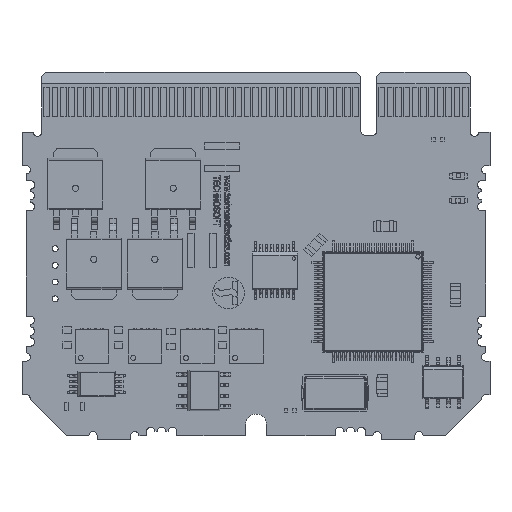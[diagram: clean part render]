
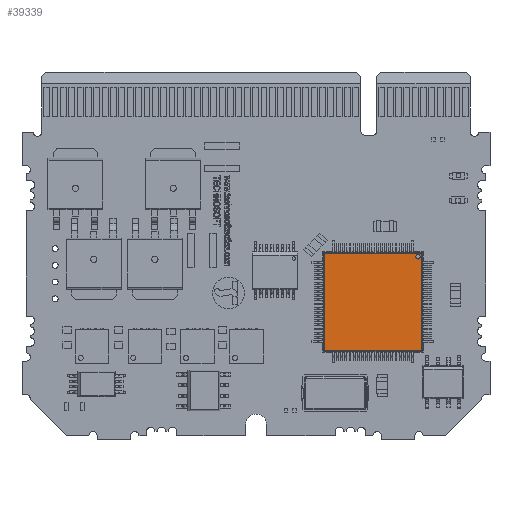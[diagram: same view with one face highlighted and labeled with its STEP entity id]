
A CAD part, front view. The second image highlights one B-rep face of the part: STEP entity #39339.
In plain terms, the highlighted planar face has unit normal (0, -1, 0).
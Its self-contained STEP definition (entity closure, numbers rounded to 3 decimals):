
#31016 = EDGE_LOOP ( 'NONE', ( #109402, #109408, #109413, #109418 ) ) ;
#31023 = EDGE_LOOP ( 'NONE', ( #109393, #109398 ) ) ;
#39339 = ADVANCED_FACE ( 'NONE', ( #186845, #186859 ), #186871, .F. ) ;
#109393 = ORIENTED_EDGE ( 'NONE', *, *, #231429, .F. ) ;
#109398 = ORIENTED_EDGE ( 'NONE', *, *, #230797, .F. ) ;
#109402 = ORIENTED_EDGE ( 'NONE', *, *, #229861, .T. ) ;
#109408 = ORIENTED_EDGE ( 'NONE', *, *, #233319, .T. ) ;
#109413 = ORIENTED_EDGE ( 'NONE', *, *, #233025, .T. ) ;
#109418 = ORIENTED_EDGE ( 'NONE', *, *, #232661, .T. ) ;
#186845 = FACE_BOUND ( 'NONE', #31023, .T. ) ;
#186859 = FACE_OUTER_BOUND ( 'NONE', #31016, .T. ) ;
#186871 = PLANE ( 'NONE',  #187768 ) ;
#186900 = CARTESIAN_POINT ( 'NONE',  ( 9.42, -2.418, -0.417 ) ) ;
#186902 = DIRECTION ( 'NONE',  ( 0., 1., 0. ) ) ;
#186905 = DIRECTION ( 'NONE',  ( 1., 0., 0. ) ) ;
#187768 = AXIS2_PLACEMENT_3D ( 'NONE', #186900, #186902, #186905 ) ;
#216258 = VECTOR ( 'NONE', #230893, 1000. ) ;
#216884 = CIRCLE ( 'NONE', #216902, 0.264 ) ;
#216902 = AXIS2_PLACEMENT_3D ( 'NONE', #233371, #233376, #233378 ) ;
#229861 = EDGE_CURVE ( 'NONE', #243996, #244007, #230880, .T. ) ;
#230797 = EDGE_CURVE ( 'NONE', #241754, #241758, #216884, .T. ) ;
#230880 = LINE ( 'NONE', #230889, #216258 ) ;
#230889 = CARTESIAN_POINT ( 'NONE',  ( -2.474, -2.418, -0.604 ) ) ;
#230893 = DIRECTION ( 'NONE',  ( -1., 0., 0. ) ) ;
#231429 = EDGE_CURVE ( 'NONE', #241758, #241754, #236447, .T. ) ;
#232661 = EDGE_CURVE ( 'NONE', #244012, #243996, #241624, .T. ) ;
#233025 = EDGE_CURVE ( 'NONE', #244010, #244012, #242784, .T. ) ;
#233319 = EDGE_CURVE ( 'NONE', #244007, #244010, #243272, .T. ) ;
#233371 = CARTESIAN_POINT ( 'NONE',  ( 8.813, -2.418, -1.023 ) ) ;
#233376 = DIRECTION ( 'NONE',  ( 0., -1., 0. ) ) ;
#233378 = DIRECTION ( 'NONE',  ( -1., 0., 0. ) ) ;
#235123 = CARTESIAN_POINT ( 'NONE',  ( 8.813, -2.418, -1.023 ) ) ;
#235126 = DIRECTION ( 'NONE',  ( 0., -1., 0. ) ) ;
#235129 = DIRECTION ( 'NONE',  ( -1., 0., 0. ) ) ;
#236447 = CIRCLE ( 'NONE', #236454, 0.264 ) ;
#236454 = AXIS2_PLACEMENT_3D ( 'NONE', #235123, #235126, #235129 ) ;
#237382 = VECTOR ( 'NONE', #241722, 1000. ) ;
#237596 = VECTOR ( 'NONE', #242794, 1000. ) ;
#237734 = VECTOR ( 'NONE', #243277, 1000. ) ;
#241624 = LINE ( 'NONE', #241710, #237382 ) ;
#241710 = CARTESIAN_POINT ( 'NONE',  ( 9.232, -2.418, -0.523 ) ) ;
#241722 = DIRECTION ( 'NONE',  ( 0., 0., 1. ) ) ;
#241754 = VERTEX_POINT ( 'NONE', #293153 ) ;
#241758 = VERTEX_POINT ( 'NONE', #293156 ) ;
#242767 = CARTESIAN_POINT ( 'NONE',  ( 9.313, -2.418, -12.23 ) ) ;
#242784 = LINE ( 'NONE', #242767, #237596 ) ;
#242794 = DIRECTION ( 'NONE',  ( 1., 0., 0. ) ) ;
#243272 = LINE ( 'NONE', #243276, #237734 ) ;
#243276 = CARTESIAN_POINT ( 'NONE',  ( -2.393, -2.418, -12.311 ) ) ;
#243277 = DIRECTION ( 'NONE',  ( 0., 0., -1. ) ) ;
#243996 = VERTEX_POINT ( 'NONE', #293906 ) ;
#244007 = VERTEX_POINT ( 'NONE', #293915 ) ;
#244010 = VERTEX_POINT ( 'NONE', #293919 ) ;
#244012 = VERTEX_POINT ( 'NONE', #293920 ) ;
#293153 = CARTESIAN_POINT ( 'NONE',  ( 9.077, -2.418, -1.023 ) ) ;
#293156 = CARTESIAN_POINT ( 'NONE',  ( 8.55, -2.418, -1.023 ) ) ;
#293906 = CARTESIAN_POINT ( 'NONE',  ( 9.232, -2.418, -0.604 ) ) ;
#293915 = CARTESIAN_POINT ( 'NONE',  ( -2.393, -2.418, -0.604 ) ) ;
#293919 = CARTESIAN_POINT ( 'NONE',  ( -2.393, -2.418, -12.23 ) ) ;
#293920 = CARTESIAN_POINT ( 'NONE',  ( 9.232, -2.418, -12.23 ) ) ;
